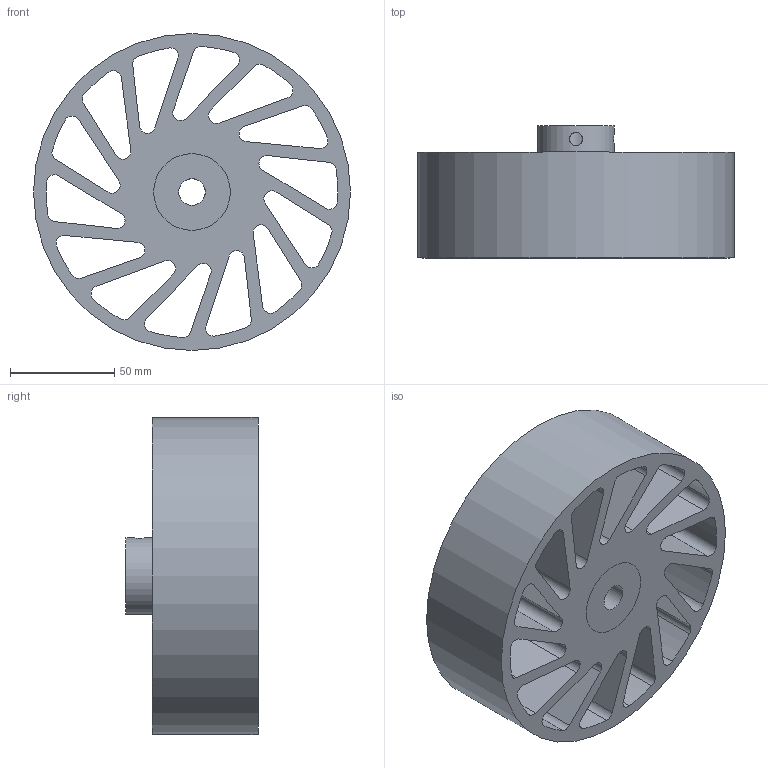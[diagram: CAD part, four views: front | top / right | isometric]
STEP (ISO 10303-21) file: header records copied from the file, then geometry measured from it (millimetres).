
FILE_DESCRIPTION(/* description */ (''),/* implementation_level */ '2;1');
FILE_NAME(/* name */ 'NCW-600-XXX-YYY.stp',/* time_stamp */ '2023-02-02T15:37:12-06:00',/* author */ ('AG'),/* organization */ ('Meridian Laboratory'),/* preprocessor_version */ 'ST-DEVELOPER v18.1',/* originating_system */ 'Autodesk Inventor 2022',/* authorisation */ '');
FILE_SCHEMA (('AUTOMOTIVE_DESIGN { 1 0 10303 214 3 1 1 }'));
Length unit declared in the file: inch
Products named in the file (1): NCW-540
Bounding box: 152.4 x 63.5 x 152.4 mm (x, y, z)
Volume: 524283.3 mm3; surface area: 134453.9 mm2
Topology: 2 solids, 2 shells, 94 faces, 276 edges, 186 vertices
Faces by surface type: cylinder 62, plane 32
Full cylindrical faces by diameter (mm): 6.35 x2, 12.725 x1, 36.83 x2, 152.4 x1
Entity records: 3518 total; most frequent: CARTESIAN_POINT 697, DIRECTION 576, ORIENTED_EDGE 552, EDGE_CURVE 276, AXIS2_PLACEMENT_3D 215, VERTEX_POINT 186, LINE 146, VECTOR 146
